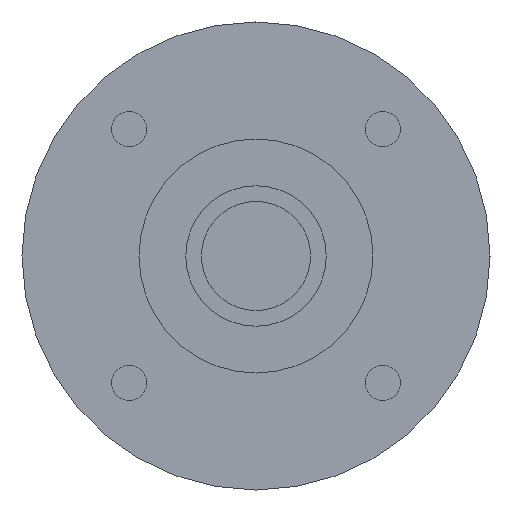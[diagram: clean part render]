
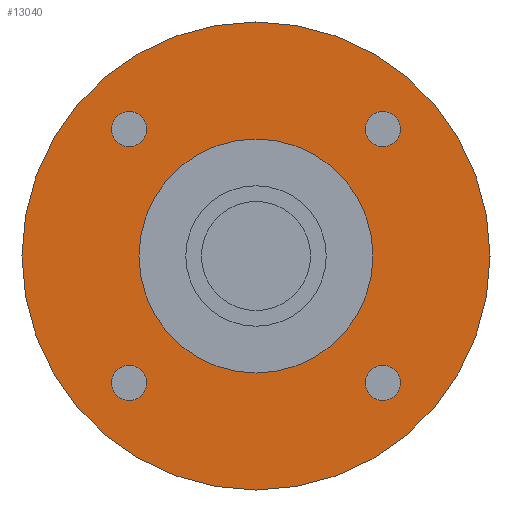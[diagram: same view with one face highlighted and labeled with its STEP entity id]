
A CAD part, left-side view. The second image highlights one B-rep face of the part: STEP entity #13040.
In plain terms, the highlighted planar face has unit normal (-1, 0, 0) as drawn and (0, 0, -1) by its records, which use the part's own axes.
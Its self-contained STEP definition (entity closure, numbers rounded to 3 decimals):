
#9080=CARTESIAN_POINT('',(-30.,0.,-35.));
#9090=VERTEX_POINT('',#9080);
#9180=CARTESIAN_POINT('',(30.,0.,-35.));
#9190=VERTEX_POINT('',#9180);
#9220=CARTESIAN_POINT('',(0.,0.,-35.
));
#9230=DIRECTION('',(0.,0.,1.));
#9240=DIRECTION('',(1.,0.,0.));
#9250=AXIS2_PLACEMENT_3D('',#9220,#9230,#9240);
#9260=CIRCLE('',#9250,30.);
#9270=CARTESIAN_POINT('',(0.,-30.,-35.));
#9280=VERTEX_POINT('',#9270);
#9290=EDGE_CURVE('',#9280,#9190,#9260,.T.);
#9310=EDGE_CURVE('',#9090,#9280,#9260,.T.);
#12010=CARTESIAN_POINT('',(16.263,14.013,-35.));
#12020=VERTEX_POINT('',#12010);
#12050=CARTESIAN_POINT('',(16.263,16.263,-35.));
#12060=DIRECTION('',(0.,0.,-1.));
#12070=DIRECTION('',(0.,1.,0.));
#12080=AXIS2_PLACEMENT_3D('',#12050,#12060,#12070);
#12090=CIRCLE('',#12080,2.25);
#12100=CARTESIAN_POINT('',(16.263,18.513,-35.));
#12110=VERTEX_POINT('',#12100);
#12120=EDGE_CURVE('',#12110,#12020,#12090,.T.);
#12240=CARTESIAN_POINT('',(0.,0.,
-35.));
#12250=DIRECTION('',(0.,0.,-1.));
#12260=DIRECTION('',(1.,0.,0.));
#12270=AXIS2_PLACEMENT_3D('',#12240,#12250,#12260);
#12280=PLANE('',#12270);
#12290=ORIENTED_EDGE('',*,*,#12120,.F.);
#12300=EDGE_CURVE('',#12020,#12110,#12090,.T.);
#12310=ORIENTED_EDGE('',*,*,#12300,.F.);
#12320=EDGE_LOOP('',(#12310,#12290));
#12330=FACE_BOUND('',#12320,.T.);
#12340=CARTESIAN_POINT('',(-16.263,16.263,-35.));
#12350=DIRECTION('',(0.,0.,-1.));
#12360=DIRECTION('',(-1.,0.,0.));
#12370=AXIS2_PLACEMENT_3D('',#12340,#12350,#12360);
#12380=CIRCLE('',#12370,2.25);
#12390=CARTESIAN_POINT('',(-18.513,16.263,-35.));
#12400=VERTEX_POINT('',#12390);
#12410=CARTESIAN_POINT('',(-14.013,16.263,-35.));
#12420=VERTEX_POINT('',#12410);
#12430=EDGE_CURVE('',#12400,#12420,#12380,.T.);
#12440=ORIENTED_EDGE('',*,*,#12430,.F.);
#12450=EDGE_CURVE('',#12420,#12400,#12380,.T.);
#12460=ORIENTED_EDGE('',*,*,#12450,.F.);
#12470=EDGE_LOOP('',(#12460,#12440));
#12480=FACE_BOUND('',#12470,.T.);
#12490=CARTESIAN_POINT('',(-16.263,-16.263,-35.));
#12500=DIRECTION('',(0.,0.,-1.));
#12510=DIRECTION('',(0.,-1.,0.));
#12520=AXIS2_PLACEMENT_3D('',#12490,#12500,#12510);
#12530=CIRCLE('',#12520,2.25);
#12540=CARTESIAN_POINT('',(-16.263,-18.513,-35.));
#12550=VERTEX_POINT('',#12540);
#12560=CARTESIAN_POINT('',(-16.263,-14.013,-35.));
#12570=VERTEX_POINT('',#12560);
#12580=EDGE_CURVE('',#12550,#12570,#12530,.T.);
#12590=ORIENTED_EDGE('',*,*,#12580,.F.);
#12600=EDGE_CURVE('',#12570,#12550,#12530,.T.);
#12610=ORIENTED_EDGE('',*,*,#12600,.F.);
#12620=EDGE_LOOP('',(#12610,#12590));
#12630=FACE_BOUND('',#12620,.T.);
#12640=CARTESIAN_POINT('',(0.,0.,
-35.));
#12650=DIRECTION('',(0.,0.,1.));
#12660=DIRECTION('',(0.,1.,0.));
#12670=AXIS2_PLACEMENT_3D('',#12640,#12650,#12660);
#12680=CIRCLE('',#12670,15.);
#12690=CARTESIAN_POINT('',(-15.,0.,-35.));
#12700=VERTEX_POINT('',#12690);
#12710=CARTESIAN_POINT('',(15.,0.,-35.));
#12720=VERTEX_POINT('',#12710);
#12730=EDGE_CURVE('',#12700,#12720,#12680,.T.);
#12740=ORIENTED_EDGE('',*,*,#12730,.T.);
#12750=CARTESIAN_POINT('',(0.,15.,-35.));
#12760=VERTEX_POINT('',#12750);
#12770=EDGE_CURVE('',#12760,#12700,#12680,.T.);
#12780=ORIENTED_EDGE('',*,*,#12770,.T.);
#12790=EDGE_CURVE('',#12720,#12760,#12680,.T.);
#12800=ORIENTED_EDGE('',*,*,#12790,.T.);
#12810=EDGE_LOOP('',(#12800,#12780,#12740));
#12820=FACE_BOUND('',#12810,.T.);
#12830=CARTESIAN_POINT('',(16.263,-16.263,-35.));
#12840=DIRECTION('',(0.,0.,-1.));
#12850=DIRECTION('',(1.,0.,0.));
#12860=AXIS2_PLACEMENT_3D('',#12830,#12840,#12850);
#12870=CIRCLE('',#12860,2.25);
#12880=CARTESIAN_POINT('',(18.513,-16.263,-35.));
#12890=VERTEX_POINT('',#12880);
#12900=CARTESIAN_POINT('',(14.013,-16.263,-35.));
#12910=VERTEX_POINT('',#12900);
#12920=EDGE_CURVE('',#12890,#12910,#12870,.T.);
#12930=ORIENTED_EDGE('',*,*,#12920,.F.);
#12940=EDGE_CURVE('',#12910,#12890,#12870,.T.);
#12950=ORIENTED_EDGE('',*,*,#12940,.F.);
#12960=EDGE_LOOP('',(#12950,#12930));
#12970=FACE_BOUND('',#12960,.T.);
#12980=ORIENTED_EDGE('',*,*,#9290,.F.);
#12990=EDGE_CURVE('',#9190,#9090,#9260,.T.);
#13000=ORIENTED_EDGE('',*,*,#12990,.F.);
#13010=ORIENTED_EDGE('',*,*,#9310,.F.);
#13020=EDGE_LOOP('',(#13010,#13000,#12980));
#13030=FACE_OUTER_BOUND('',#13020,.T.);
#13040=ADVANCED_FACE('',(#12330,#12480,#12630,#12820,#12970,#13030),
#12280,.T.);
